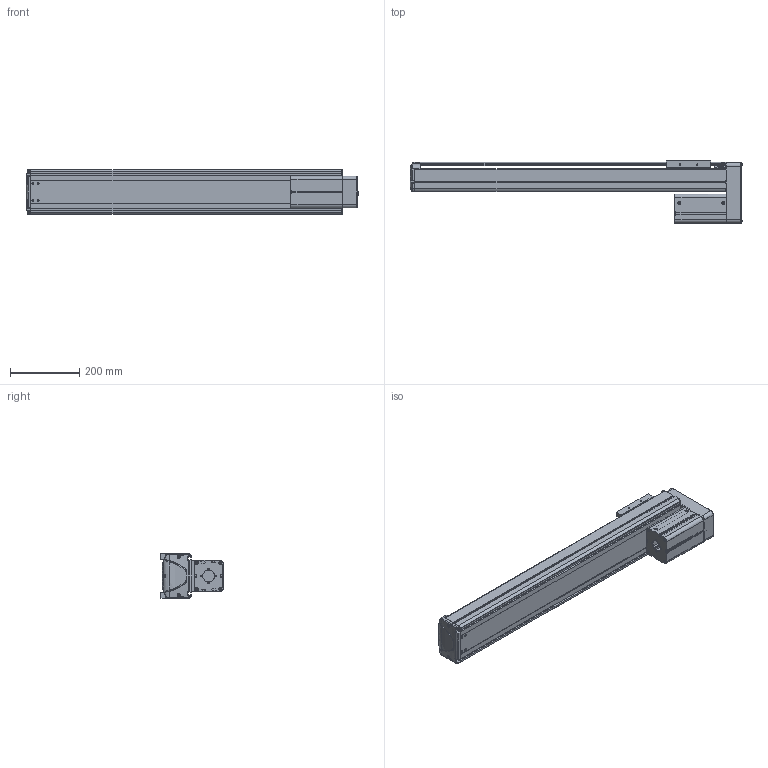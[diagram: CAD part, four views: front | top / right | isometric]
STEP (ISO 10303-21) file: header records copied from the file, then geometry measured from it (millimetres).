
FILE_DESCRIPTION((''),'2;1');
FILE_NAME('BE30E-UU-M_N-70_IGS_PRT','2017-06-17T',(' '),(''),'PRO/ENGINEER BY PARAMETRIC TECHNOLOGY CORPORATION, 2015030','PRO/ENGINEER BY PARAMETRIC TECHNOLOGY CORPORATION, 2015030','');
FILE_SCHEMA(('CONFIG_CONTROL_DESIGN'));
Length unit declared in the file: millimetre
Products named in the file (1): BE30E-UU-M_N-70_IGS_PRT
Bounding box: 961.9 x 180 x 130 mm (x, y, z)
Volume: 3218547.2 mm3; surface area: 1398214.3 mm2
Topology: 2 solids, 119 shells, 2019 faces, 5441 edges, 3532 vertices
Faces by surface type: plane 987, cylinder 835, cone 107, torus 38, bspline 28, sphere 24
Entity records: 65346 total; most frequent: CARTESIAN_POINT 13807, DIRECTION 10892, ORIENTED_EDGE 10357, EDGE_CURVE 5403, AXIS2_PLACEMENT_3D 3832, VERTEX_POINT 3532, VECTOR 3228, LINE 3228
